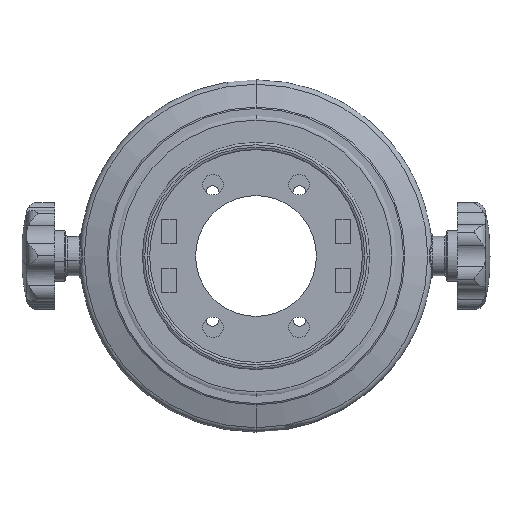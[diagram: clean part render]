
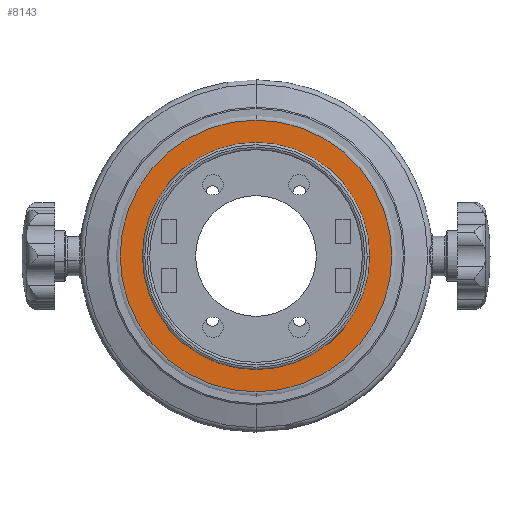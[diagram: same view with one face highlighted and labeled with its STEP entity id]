
A CAD part, front view. The second image highlights one B-rep face of the part: STEP entity #8143.
In plain terms, the highlighted planar face has unit normal (0, -1, 0).
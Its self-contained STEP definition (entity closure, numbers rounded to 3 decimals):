
#30 = VERTEX_POINT ( 'NONE', #10217 ) ;
#590 = CARTESIAN_POINT ( 'NONE',  ( 0., -2.75, 56.2 ) ) ;
#1215 = CARTESIAN_POINT ( 'NONE',  ( 0., -2.75, 0. ) ) ;
#1438 = DIRECTION ( 'NONE',  ( 0., 0., -1. ) ) ;
#1495 = ORIENTED_EDGE ( 'NONE', *, *, #9120, .F. ) ;
#1636 = EDGE_CURVE ( 'NONE', #30, #3402, #17189, .T. ) ;
#2237 = VERTEX_POINT ( 'NONE', #20734 ) ;
#3197 = DIRECTION ( 'NONE',  ( 0., 0., -1. ) ) ;
#3402 = VERTEX_POINT ( 'NONE', #590 ) ;
#4134 = CARTESIAN_POINT ( 'NONE',  ( 47., -2.75, 0. ) ) ;
#4592 = DIRECTION ( 'NONE',  ( 0., 0., -1. ) ) ;
#4789 = CARTESIAN_POINT ( 'NONE',  ( 0., -2.75, 0. ) ) ;
#5594 = AXIS2_PLACEMENT_3D ( 'NONE', #8147, #16389, #13212 ) ;
#6062 = DIRECTION ( 'NONE',  ( 0., -1., 0. ) ) ;
#6297 = CARTESIAN_POINT ( 'NONE',  ( 0., -2.75, 0. ) ) ;
#7444 = FACE_BOUND ( 'NONE', #14858, .T. ) ;
#7743 = EDGE_CURVE ( 'NONE', #3402, #30, #15328, .T. ) ;
#7999 = DIRECTION ( 'NONE',  ( 0., -1., 0. ) ) ;
#8143 = ADVANCED_FACE ( 'NONE', ( #7444, #8225 ), #12830, .T. ) ;
#8147 = CARTESIAN_POINT ( 'NONE',  ( 0., -2.75, 0. ) ) ;
#8225 = FACE_OUTER_BOUND ( 'NONE', #21230, .T. ) ;
#9120 = EDGE_CURVE ( 'NONE', #2237, #18471, #16834, .T. ) ;
#9159 = EDGE_CURVE ( 'NONE', #18471, #2237, #11600, .T. ) ;
#9444 = AXIS2_PLACEMENT_3D ( 'NONE', #1215, #7999, #1438 ) ;
#9622 = DIRECTION ( 'NONE',  ( 0., 0., -1. ) ) ;
#10217 = CARTESIAN_POINT ( 'NONE',  ( 0., -2.75, -56.2 ) ) ;
#10271 = AXIS2_PLACEMENT_3D ( 'NONE', #16315, #17992, #9622 ) ;
#10727 = AXIS2_PLACEMENT_3D ( 'NONE', #4789, #16572, #3197 ) ;
#11600 = CIRCLE ( 'NONE', #10271, 47. ) ;
#12830 = PLANE ( 'NONE',  #13074 ) ;
#13074 = AXIS2_PLACEMENT_3D ( 'NONE', #6297, #6062, #4592 ) ;
#13212 = DIRECTION ( 'NONE',  ( 0., 0., -1. ) ) ;
#14858 = EDGE_LOOP ( 'NONE', ( #15689, #1495 ) ) ;
#15328 = CIRCLE ( 'NONE', #5594, 56.2 ) ;
#15689 = ORIENTED_EDGE ( 'NONE', *, *, #9159, .F. ) ;
#16315 = CARTESIAN_POINT ( 'NONE',  ( 0., -2.75, 0. ) ) ;
#16389 = DIRECTION ( 'NONE',  ( 0., -1., 0. ) ) ;
#16572 = DIRECTION ( 'NONE',  ( 0., -1., 0. ) ) ;
#16834 = CIRCLE ( 'NONE', #9444, 47. ) ;
#17039 = ORIENTED_EDGE ( 'NONE', *, *, #7743, .T. ) ;
#17189 = CIRCLE ( 'NONE', #10727, 56.2 ) ;
#17992 = DIRECTION ( 'NONE',  ( 0., -1., 0. ) ) ;
#18471 = VERTEX_POINT ( 'NONE', #4134 ) ;
#20011 = ORIENTED_EDGE ( 'NONE', *, *, #1636, .T. ) ;
#20734 = CARTESIAN_POINT ( 'NONE',  ( -47., -2.75, 0. ) ) ;
#21230 = EDGE_LOOP ( 'NONE', ( #20011, #17039 ) ) ;
